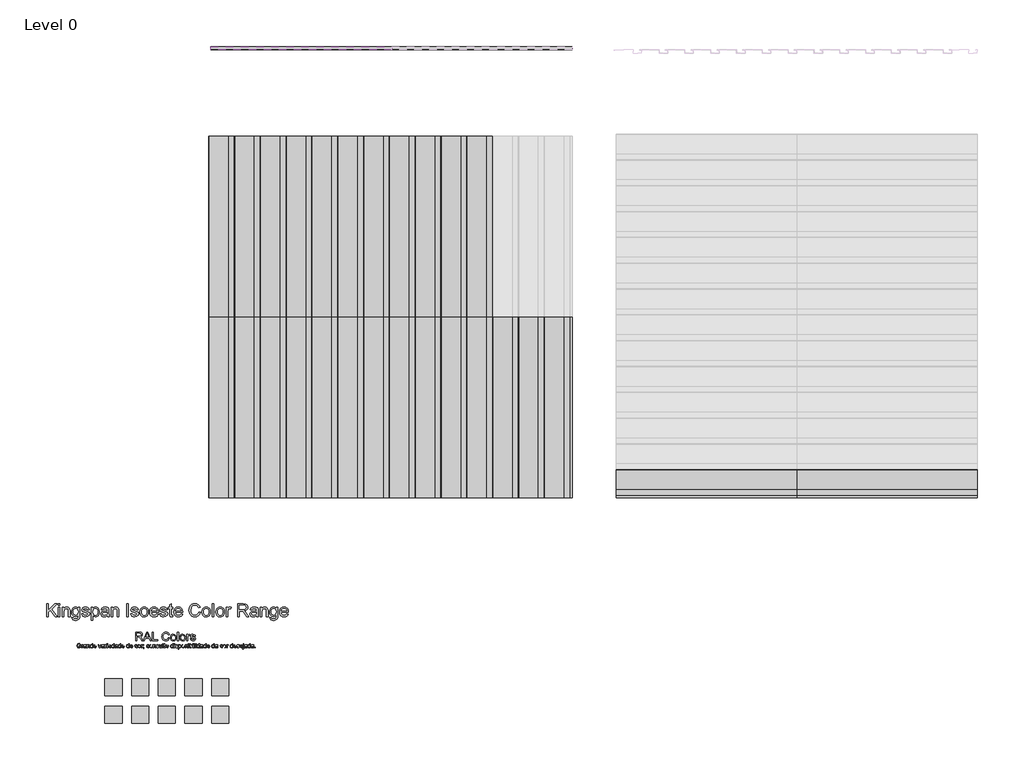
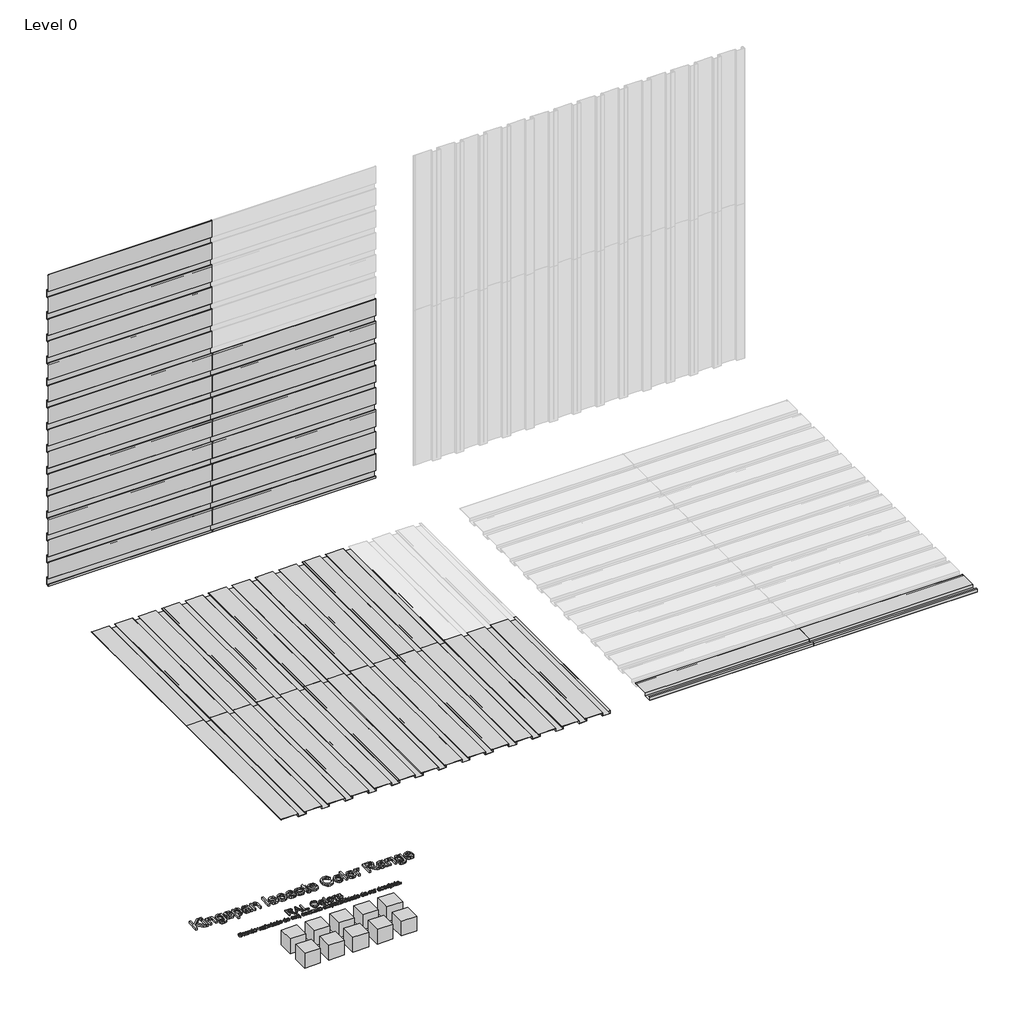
# One storey, part 1 of 2: 60 proxies.
"""IFC4 building model written with IfcOpenShell, lengths in millimetres."""

from ifc_helpers import new_model, si_unit, origin, place, context, project, spatial, transform, mapped, element, save
from components import proxy_32_ks_iso_colour_range_8220f766, proxy_32_ks_iso_colour_range_06d69407, ks_colour_sample_ks_colour_sample_0243efec, mx11_0_standard_panel_ns_816acfb4, mx11_0_standard_panel_ns_a8d7d735

model = new_model("IFC4")

# Units and contexts
model_context = context("Model", 3, world=origin())
ifc_project = project(units=[si_unit("LENGTHUNIT", "METRE", prefix="MILLI")], contexts=[model_context])

# Site, building, storey
site = spatial("IfcSite", under=ifc_project)
building = spatial("IfcBuilding", under=site)
storey = spatial("IfcBuildingStorey", under=building, Name="Level 0", Elevation=0.0)

# Proxies
placement = place(None, origin())
proxy_32_ks_iso_colour_range_shape = proxy_32_ks_iso_colour_range_8220f766(model_context)
proxy_32_ks_iso_colour_range_2_shape = proxy_32_ks_iso_colour_range_06d69407(model_context)
element("IfcBuildingElementProxy", 1, Name="32-KS-ISO-Colour Range : Kingspan Isoeste Color Range", ObjectType="32-KS-ISO-Colour Range : Kingspan Isoeste Color Range", at=placement, inside=storey, context=model_context, shape_type="MappedRepresentation", body=[
    mapped(proxy_32_ks_iso_colour_range_shape, transform((-3929.8390717, -2223.0925896, 0.0), x_axis=(1.0, 0.0, 0.0), y_axis=(0.0, 1.0, 0.0), z_axis=(0.0, 0.0, 1.0))),
    mapped(proxy_32_ks_iso_colour_range_2_shape, transform((-3929.8390717, -2223.0925896, 0.0), x_axis=(1.0, 0.0, 0.0), y_axis=(0.0, 1.0, 0.0), z_axis=(0.0, 0.0, 1.0))),
])
ks_colour_sample_ks_colour_sample_shape = ks_colour_sample_ks_colour_sample_0243efec(model_context)
element("IfcBuildingElementProxy", 2, Name="KS_Colour Sample : KS_Colour Sample", ObjectType="KS_Colour Sample : KS_Colour Sample", at=placement, inside=storey, context=model_context, shape_type="MappedRepresentation", body=[
    mapped(ks_colour_sample_ks_colour_sample_shape, transform((-3309.8390717, -2663.0925896, 0.0), x_axis=(1.0, 0.0, 0.0), y_axis=(0.0, 1.0, 0.0), z_axis=(0.0, 0.0, 1.0))),
])
element("IfcBuildingElementProxy", 3, Name="KS_Colour Sample : KS_Colour Sample", ObjectType="KS_Colour Sample : KS_Colour Sample", at=placement, inside=storey, context=model_context, shape_type="MappedRepresentation", body=[
    mapped(ks_colour_sample_ks_colour_sample_shape, transform((-3309.8390717, -2343.0925896, 0.0), x_axis=(1.0, 0.0, 0.0), y_axis=(0.0, 1.0, 0.0), z_axis=(0.0, 0.0, 1.0))),
])
element("IfcBuildingElementProxy", 4, Name="KS_Colour Sample : KS_Colour Sample", ObjectType="KS_Colour Sample : KS_Colour Sample", at=placement, inside=storey, context=model_context, shape_type="MappedRepresentation", body=[
    mapped(ks_colour_sample_ks_colour_sample_shape, transform((-4549.8390717, -2663.0925896, 0.0), x_axis=(1.0, 0.0, 0.0), y_axis=(0.0, 1.0, 0.0), z_axis=(0.0, 0.0, 1.0))),
])
element("IfcBuildingElementProxy", 5, Name="KS_Colour Sample : KS_Colour Sample", ObjectType="KS_Colour Sample : KS_Colour Sample", at=placement, inside=storey, context=model_context, shape_type="MappedRepresentation", body=[
    mapped(ks_colour_sample_ks_colour_sample_shape, transform((-4239.8390717, -2663.0925896, 0.0), x_axis=(1.0, 0.0, 0.0), y_axis=(0.0, 1.0, 0.0), z_axis=(0.0, 0.0, 1.0))),
])
element("IfcBuildingElementProxy", 6, Name="KS_Colour Sample : KS_Colour Sample", ObjectType="KS_Colour Sample : KS_Colour Sample", at=placement, inside=storey, context=model_context, shape_type="MappedRepresentation", body=[
    mapped(ks_colour_sample_ks_colour_sample_shape, transform((-3619.8390717, -2663.0925896, 0.0), x_axis=(1.0, 0.0, 0.0), y_axis=(0.0, 1.0, 0.0), z_axis=(0.0, 0.0, 1.0))),
])
element("IfcBuildingElementProxy", 7, Name="KS_Colour Sample : KS_Colour Sample", ObjectType="KS_Colour Sample : KS_Colour Sample", at=placement, inside=storey, context=model_context, shape_type="MappedRepresentation", body=[
    mapped(ks_colour_sample_ks_colour_sample_shape, transform((-4549.8390717, -2343.0925896, 0.0), x_axis=(1.0, 0.0, 0.0), y_axis=(0.0, 1.0, 0.0), z_axis=(0.0, 0.0, 1.0))),
])
element("IfcBuildingElementProxy", 8, Name="KS_Colour Sample : KS_Colour Sample", ObjectType="KS_Colour Sample : KS_Colour Sample", at=placement, inside=storey, context=model_context, shape_type="MappedRepresentation", body=[
    mapped(ks_colour_sample_ks_colour_sample_shape, transform((-4239.8390717, -2343.0925896, 0.0), x_axis=(1.0, 0.0, 0.0), y_axis=(0.0, 1.0, 0.0), z_axis=(0.0, 0.0, 1.0))),
])
element("IfcBuildingElementProxy", 9, Name="KS_Colour Sample : KS_Colour Sample", ObjectType="KS_Colour Sample : KS_Colour Sample", at=placement, inside=storey, context=model_context, shape_type="MappedRepresentation", body=[
    mapped(ks_colour_sample_ks_colour_sample_shape, transform((-3619.8390717, -2343.0925896, 0.0), x_axis=(1.0, 0.0, 0.0), y_axis=(0.0, 1.0, 0.0), z_axis=(0.0, 0.0, 1.0))),
])
element("IfcBuildingElementProxy", 10, Name="KS_Colour Sample : KS_Colour Sample", ObjectType="KS_Colour Sample : KS_Colour Sample", at=placement, inside=storey, context=model_context, shape_type="MappedRepresentation", body=[
    mapped(ks_colour_sample_ks_colour_sample_shape, transform((-3929.8390717, -2343.0925896, 0.0), x_axis=(1.0, 0.0, 0.0), y_axis=(0.0, 1.0, 0.0), z_axis=(0.0, 0.0, 1.0))),
])
element("IfcBuildingElementProxy", 11, Name="KS_Colour Sample : KS_Colour Sample", ObjectType="KS_Colour Sample : KS_Colour Sample", at=placement, inside=storey, context=model_context, shape_type="MappedRepresentation", body=[
    mapped(ks_colour_sample_ks_colour_sample_shape, transform((-3929.8390717, -2663.0925896, 0.0), x_axis=(1.0, 0.0, 0.0), y_axis=(0.0, 1.0, 0.0), z_axis=(0.0, 0.0, 1.0))),
])
mx11_0_standard_panel_ns_shape = mx11_0_standard_panel_ns_816acfb4(model_context)
element("IfcBuildingElementProxy", 12, Name="MX11.0 : Standard Panel_NS", ObjectType="MX11.0 : Standard Panel_NS", at=placement, inside=storey, context=model_context, shape_type="MappedRepresentation", body=[
    mapped(mx11_0_standard_panel_ns_shape, transform((-1617.7637297, -141.6886547, 0.0), x_axis=(0.0, 1.0, 0.0), y_axis=(-1.0, 0.0, 0.0), z_axis=(0.0, 0.0, 1.0))),
])
element("IfcBuildingElementProxy", 13, Name="MX11.0 : Standard Panel_NS", ObjectType="MX11.0 : Standard Panel_NS", at=placement, inside=storey, context=model_context, shape_type="MappedRepresentation", body=[
    mapped(mx11_0_standard_panel_ns_shape, transform((1289.7088668, -141.6886547, 0.0), x_axis=(1.0, 0.0, 0.0), y_axis=(0.0, 1.0, 0.0), z_axis=(0.0, 0.0, 1.0))),
])
element("IfcBuildingElementProxy", 14, Name="MX11.0 : Standard Panel_NS", ObjectType="MX11.0 : Standard Panel_NS", at=placement, inside=storey, context=model_context, shape_type="MappedRepresentation", body=[
    mapped(mx11_0_standard_panel_ns_shape, transform((-1617.7637297, 1958.3113453, 0.0), x_axis=(0.0, 1.0, 0.0), y_axis=(-1.0, 0.0, 0.0), z_axis=(0.0, 0.0, 1.0))),
])
element("IfcBuildingElementProxy", 15, Name="MX11.0 : Standard Panel_NS", ObjectType="MX11.0 : Standard Panel_NS", at=placement, inside=storey, context=model_context, shape_type="MappedRepresentation", body=[
    mapped(mx11_0_standard_panel_ns_shape, transform((3389.7088668, -141.6886547, 0.0), x_axis=(1.0, 0.0, 0.0), y_axis=(0.0, 1.0, 0.0), z_axis=(0.0, 0.0, 1.0))),
])
element("IfcBuildingElementProxy", 16, Name="MX11.0 : Standard Panel_NS", ObjectType="MX11.0 : Standard Panel_NS", at=placement, inside=storey, context=model_context, shape_type="MappedRepresentation", body=[
    mapped(mx11_0_standard_panel_ns_shape, transform((782.2362705, -141.6886547, 0.0), x_axis=(0.0, 1.0, 0.0), y_axis=(-1.0, 0.0, 0.0), z_axis=(0.0, 0.0, 1.0))),
])
mx11_0_standard_panel_ns_2_shape = mx11_0_standard_panel_ns_a8d7d735(model_context)
element("IfcBuildingElementProxy", 17, Name="MX11.0 : Standard Panel_NS", ObjectType="MX11.0 : Standard Panel_NS", at=placement, inside=storey, context=model_context, shape_type="MappedRepresentation", body=[
    mapped(mx11_0_standard_panel_ns_2_shape, transform((-3417.7637295, 5063.0274074, 0.0), x_axis=(1.0, 0.0, 0.0), y_axis=(0.0, 0.0, -1.0), z_axis=(0.0, 1.0, 0.0))),
])
element("IfcBuildingElementProxy", 18, Name="MX11.0 : Standard Panel_NS", ObjectType="MX11.0 : Standard Panel_NS", at=placement, inside=storey, context=model_context, shape_type="MappedRepresentation", body=[
    mapped(mx11_0_standard_panel_ns_2_shape, transform((-3417.7637295, 5063.0274074, 2400.0), x_axis=(1.0, 0.0, 0.0), y_axis=(0.0, 0.0, -1.0), z_axis=(0.0, 1.0, 0.0))),
])
element("IfcBuildingElementProxy", 19, Name="MX11.0 : Standard Panel_NS", ObjectType="MX11.0 : Standard Panel_NS", at=placement, inside=storey, context=model_context, shape_type="MappedRepresentation", body=[
    mapped(mx11_0_standard_panel_ns_2_shape, transform((-1317.7637295, 5063.0274074, 0.0), x_axis=(1.0, 0.0, 0.0), y_axis=(0.0, 0.0, -1.0), z_axis=(0.0, 1.0, 0.0))),
])
element("IfcBuildingElementProxy", 20, Name="MX11.0 : Standard Panel_NS", ObjectType="MX11.0 : Standard Panel_NS", at=placement, inside=storey, context=model_context, shape_type="MappedRepresentation", body=[
    mapped(mx11_0_standard_panel_ns_shape, transform((-3117.7637295, -141.6886547, 0.0), x_axis=(0.0, 1.0, 0.0), y_axis=(-1.0, 0.0, 0.0), z_axis=(0.0, 0.0, 1.0))),
])
element("IfcBuildingElementProxy", 21, Name="MX11.0 : Standard Panel_NS", ObjectType="MX11.0 : Standard Panel_NS", at=placement, inside=storey, context=model_context, shape_type="MappedRepresentation", body=[
    mapped(mx11_0_standard_panel_ns_shape, transform((-717.7637297, -141.6886547, 0.0), x_axis=(0.0, 1.0, 0.0), y_axis=(-1.0, 0.0, 0.0), z_axis=(0.0, 0.0, 1.0))),
])
element("IfcBuildingElementProxy", 22, Name="MX11.0 : Standard Panel_NS", ObjectType="MX11.0 : Standard Panel_NS", at=placement, inside=storey, context=model_context, shape_type="MappedRepresentation", body=[
    mapped(mx11_0_standard_panel_ns_shape, transform((-3117.7637295, 1958.3113453, 0.0), x_axis=(0.0, 1.0, 0.0), y_axis=(-1.0, 0.0, 0.0), z_axis=(0.0, 0.0, 1.0))),
])
element("IfcBuildingElementProxy", 23, Name="MX11.0 : Standard Panel_NS", ObjectType="MX11.0 : Standard Panel_NS", at=placement, inside=storey, context=model_context, shape_type="MappedRepresentation", body=[
    mapped(mx11_0_standard_panel_ns_shape, transform((-717.7637297, 1958.3113453, 0.0), x_axis=(0.0, 1.0, 0.0), y_axis=(-1.0, 0.0, 0.0), z_axis=(0.0, 0.0, 1.0))),
])
element("IfcBuildingElementProxy", 24, Name="MX11.0 : Standard Panel_NS", ObjectType="MX11.0 : Standard Panel_NS", at=placement, inside=storey, context=model_context, shape_type="MappedRepresentation", body=[
    mapped(mx11_0_standard_panel_ns_shape, transform((482.2362703, -141.6886547, 0.0), x_axis=(0.0, 1.0, 0.0), y_axis=(-1.0, 0.0, 0.0), z_axis=(0.0, 0.0, 1.0))),
])
element("IfcBuildingElementProxy", 25, Name="MX11.0 : Standard Panel_NS", ObjectType="MX11.0 : Standard Panel_NS", at=placement, inside=storey, context=model_context, shape_type="MappedRepresentation", body=[
    mapped(mx11_0_standard_panel_ns_shape, transform((-1917.7637297, -141.6886547, 0.0), x_axis=(0.0, 1.0, 0.0), y_axis=(-1.0, 0.0, 0.0), z_axis=(0.0, 0.0, 1.0))),
])
element("IfcBuildingElementProxy", 26, Name="MX11.0 : Standard Panel_NS", ObjectType="MX11.0 : Standard Panel_NS", at=placement, inside=storey, context=model_context, shape_type="MappedRepresentation", body=[
    mapped(mx11_0_standard_panel_ns_shape, transform((-1917.7637297, 1958.3113453, 0.0), x_axis=(0.0, 1.0, 0.0), y_axis=(-1.0, 0.0, 0.0), z_axis=(0.0, 0.0, 1.0))),
])
element("IfcBuildingElementProxy", 27, Name="MX11.0 : Standard Panel_NS", ObjectType="MX11.0 : Standard Panel_NS", at=placement, inside=storey, context=model_context, shape_type="MappedRepresentation", body=[
    mapped(mx11_0_standard_panel_ns_shape, transform((182.2362703, -141.6886547, 0.0), x_axis=(0.0, 1.0, 0.0), y_axis=(-1.0, 0.0, 0.0), z_axis=(0.0, 0.0, 1.0))),
])
element("IfcBuildingElementProxy", 28, Name="MX11.0 : Standard Panel_NS", ObjectType="MX11.0 : Standard Panel_NS", at=placement, inside=storey, context=model_context, shape_type="MappedRepresentation", body=[
    mapped(mx11_0_standard_panel_ns_shape, transform((-2217.7637297, -141.6886547, 0.0), x_axis=(0.0, 1.0, 0.0), y_axis=(-1.0, 0.0, 0.0), z_axis=(0.0, 0.0, 1.0))),
])
element("IfcBuildingElementProxy", 29, Name="MX11.0 : Standard Panel_NS", ObjectType="MX11.0 : Standard Panel_NS", at=placement, inside=storey, context=model_context, shape_type="MappedRepresentation", body=[
    mapped(mx11_0_standard_panel_ns_shape, transform((-2217.7637297, 1958.3113453, 0.0), x_axis=(0.0, 1.0, 0.0), y_axis=(-1.0, 0.0, 0.0), z_axis=(0.0, 0.0, 1.0))),
])
element("IfcBuildingElementProxy", 30, Name="MX11.0 : Standard Panel_NS", ObjectType="MX11.0 : Standard Panel_NS", at=placement, inside=storey, context=model_context, shape_type="MappedRepresentation", body=[
    mapped(mx11_0_standard_panel_ns_shape, transform((-117.7637297, -141.6886547, 0.0), x_axis=(0.0, 1.0, 0.0), y_axis=(-1.0, 0.0, 0.0), z_axis=(0.0, 0.0, 1.0))),
])
element("IfcBuildingElementProxy", 31, Name="MX11.0 : Standard Panel_NS", ObjectType="MX11.0 : Standard Panel_NS", at=placement, inside=storey, context=model_context, shape_type="MappedRepresentation", body=[
    mapped(mx11_0_standard_panel_ns_shape, transform((-2517.7637297, -141.6886547, 0.0), x_axis=(0.0, 1.0, 0.0), y_axis=(-1.0, 0.0, 0.0), z_axis=(0.0, 0.0, 1.0))),
])
element("IfcBuildingElementProxy", 32, Name="MX11.0 : Standard Panel_NS", ObjectType="MX11.0 : Standard Panel_NS", at=placement, inside=storey, context=model_context, shape_type="MappedRepresentation", body=[
    mapped(mx11_0_standard_panel_ns_shape, transform((-2517.7637297, 1958.3113453, 0.0), x_axis=(0.0, 1.0, 0.0), y_axis=(-1.0, 0.0, 0.0), z_axis=(0.0, 0.0, 1.0))),
])
element("IfcBuildingElementProxy", 33, Name="MX11.0 : Standard Panel_NS", ObjectType="MX11.0 : Standard Panel_NS", at=placement, inside=storey, context=model_context, shape_type="MappedRepresentation", body=[
    mapped(mx11_0_standard_panel_ns_shape, transform((-117.7637297, 1958.3113453, 0.0), x_axis=(0.0, 1.0, 0.0), y_axis=(-1.0, 0.0, 0.0), z_axis=(0.0, 0.0, 1.0))),
])
element("IfcBuildingElementProxy", 34, Name="MX11.0 : Standard Panel_NS", ObjectType="MX11.0 : Standard Panel_NS", at=placement, inside=storey, context=model_context, shape_type="MappedRepresentation", body=[
    mapped(mx11_0_standard_panel_ns_shape, transform((-417.7637297, -141.6886547, 0.0), x_axis=(0.0, 1.0, 0.0), y_axis=(-1.0, 0.0, 0.0), z_axis=(0.0, 0.0, 1.0))),
])
element("IfcBuildingElementProxy", 35, Name="MX11.0 : Standard Panel_NS", ObjectType="MX11.0 : Standard Panel_NS", at=placement, inside=storey, context=model_context, shape_type="MappedRepresentation", body=[
    mapped(mx11_0_standard_panel_ns_shape, transform((-2817.7637297, -141.6886547, 0.0), x_axis=(0.0, 1.0, 0.0), y_axis=(-1.0, 0.0, 0.0), z_axis=(0.0, 0.0, 1.0))),
])
element("IfcBuildingElementProxy", 36, Name="MX11.0 : Standard Panel_NS", ObjectType="MX11.0 : Standard Panel_NS", at=placement, inside=storey, context=model_context, shape_type="MappedRepresentation", body=[
    mapped(mx11_0_standard_panel_ns_shape, transform((-2817.7637297, 1958.3113453, 0.0), x_axis=(0.0, 1.0, 0.0), y_axis=(-1.0, 0.0, 0.0), z_axis=(0.0, 0.0, 1.0))),
])
element("IfcBuildingElementProxy", 37, Name="MX11.0 : Standard Panel_NS", ObjectType="MX11.0 : Standard Panel_NS", at=placement, inside=storey, context=model_context, shape_type="MappedRepresentation", body=[
    mapped(mx11_0_standard_panel_ns_shape, transform((-417.7637297, 1958.3113453, 0.0), x_axis=(0.0, 1.0, 0.0), y_axis=(-1.0, 0.0, 0.0), z_axis=(0.0, 0.0, 1.0))),
])
element("IfcBuildingElementProxy", 38, Name="MX11.0 : Standard Panel_NS", ObjectType="MX11.0 : Standard Panel_NS", at=placement, inside=storey, context=model_context, shape_type="MappedRepresentation", body=[
    mapped(mx11_0_standard_panel_ns_shape, transform((-1017.7637297, -141.6886547, 0.0), x_axis=(0.0, 1.0, 0.0), y_axis=(-1.0, 0.0, 0.0), z_axis=(0.0, 0.0, 1.0))),
])
element("IfcBuildingElementProxy", 39, Name="MX11.0 : Standard Panel_NS", ObjectType="MX11.0 : Standard Panel_NS", at=placement, inside=storey, context=model_context, shape_type="MappedRepresentation", body=[
    mapped(mx11_0_standard_panel_ns_shape, transform((-1017.7637297, 1958.3113453, 0.0), x_axis=(0.0, 1.0, 0.0), y_axis=(-1.0, 0.0, 0.0), z_axis=(0.0, 0.0, 1.0))),
])
element("IfcBuildingElementProxy", 40, Name="MX11.0 : Standard Panel_NS", ObjectType="MX11.0 : Standard Panel_NS", at=placement, inside=storey, context=model_context, shape_type="MappedRepresentation", body=[
    mapped(mx11_0_standard_panel_ns_shape, transform((-1317.7637297, -141.6886547, 0.0), x_axis=(0.0, 1.0, 0.0), y_axis=(-1.0, 0.0, 0.0), z_axis=(0.0, 0.0, 1.0))),
])
element("IfcBuildingElementProxy", 41, Name="MX11.0 : Standard Panel_NS", ObjectType="MX11.0 : Standard Panel_NS", at=placement, inside=storey, context=model_context, shape_type="MappedRepresentation", body=[
    mapped(mx11_0_standard_panel_ns_shape, transform((-1317.7637297, 1958.3113453, 0.0), x_axis=(0.0, 1.0, 0.0), y_axis=(-1.0, 0.0, 0.0), z_axis=(0.0, 0.0, 1.0))),
])
element("IfcBuildingElementProxy", 42, Name="MX11.0 : Standard Panel_NS", ObjectType="MX11.0 : Standard Panel_NS", at=placement, inside=storey, context=model_context, shape_type="MappedRepresentation", body=[
    mapped(mx11_0_standard_panel_ns_2_shape, transform((-3417.7637295, 5063.0274074, 300.0), x_axis=(1.0, 0.0, 0.0), y_axis=(0.0, 0.0, -1.0), z_axis=(0.0, 1.0, 0.0))),
])
element("IfcBuildingElementProxy", 43, Name="MX11.0 : Standard Panel_NS", ObjectType="MX11.0 : Standard Panel_NS", at=placement, inside=storey, context=model_context, shape_type="MappedRepresentation", body=[
    mapped(mx11_0_standard_panel_ns_2_shape, transform((-3417.7637295, 5063.0274074, 2700.0), x_axis=(1.0, 0.0, 0.0), y_axis=(0.0, 0.0, -1.0), z_axis=(0.0, 1.0, 0.0))),
])
element("IfcBuildingElementProxy", 44, Name="MX11.0 : Standard Panel_NS", ObjectType="MX11.0 : Standard Panel_NS", at=placement, inside=storey, context=model_context, shape_type="MappedRepresentation", body=[
    mapped(mx11_0_standard_panel_ns_2_shape, transform((-1317.7637295, 5063.0274074, 300.0), x_axis=(1.0, 0.0, 0.0), y_axis=(0.0, 0.0, -1.0), z_axis=(0.0, 1.0, 0.0))),
])
element("IfcBuildingElementProxy", 45, Name="MX11.0 : Standard Panel_NS", ObjectType="MX11.0 : Standard Panel_NS", at=placement, inside=storey, context=model_context, shape_type="MappedRepresentation", body=[
    mapped(mx11_0_standard_panel_ns_2_shape, transform((-3417.7637295, 5063.0274074, 600.0), x_axis=(1.0, 0.0, 0.0), y_axis=(0.0, 0.0, -1.0), z_axis=(0.0, 1.0, 0.0))),
])
element("IfcBuildingElementProxy", 46, Name="MX11.0 : Standard Panel_NS", ObjectType="MX11.0 : Standard Panel_NS", at=placement, inside=storey, context=model_context, shape_type="MappedRepresentation", body=[
    mapped(mx11_0_standard_panel_ns_2_shape, transform((-3417.7637295, 5063.0274074, 3000.0), x_axis=(1.0, 0.0, 0.0), y_axis=(0.0, 0.0, -1.0), z_axis=(0.0, 1.0, 0.0))),
])
element("IfcBuildingElementProxy", 47, Name="MX11.0 : Standard Panel_NS", ObjectType="MX11.0 : Standard Panel_NS", at=placement, inside=storey, context=model_context, shape_type="MappedRepresentation", body=[
    mapped(mx11_0_standard_panel_ns_2_shape, transform((-1317.7637295, 5063.0274074, 600.0), x_axis=(1.0, 0.0, 0.0), y_axis=(0.0, 0.0, -1.0), z_axis=(0.0, 1.0, 0.0))),
])
element("IfcBuildingElementProxy", 48, Name="MX11.0 : Standard Panel_NS", ObjectType="MX11.0 : Standard Panel_NS", at=placement, inside=storey, context=model_context, shape_type="MappedRepresentation", body=[
    mapped(mx11_0_standard_panel_ns_2_shape, transform((-3417.7637295, 5063.0274074, 900.0), x_axis=(1.0, 0.0, 0.0), y_axis=(0.0, 0.0, -1.0), z_axis=(0.0, 1.0, 0.0))),
])
element("IfcBuildingElementProxy", 49, Name="MX11.0 : Standard Panel_NS", ObjectType="MX11.0 : Standard Panel_NS", at=placement, inside=storey, context=model_context, shape_type="MappedRepresentation", body=[
    mapped(mx11_0_standard_panel_ns_2_shape, transform((-3417.7637295, 5063.0274074, 3300.0), x_axis=(1.0, 0.0, 0.0), y_axis=(0.0, 0.0, -1.0), z_axis=(0.0, 1.0, 0.0))),
])
element("IfcBuildingElementProxy", 50, Name="MX11.0 : Standard Panel_NS", ObjectType="MX11.0 : Standard Panel_NS", at=placement, inside=storey, context=model_context, shape_type="MappedRepresentation", body=[
    mapped(mx11_0_standard_panel_ns_2_shape, transform((-1317.7637295, 5063.0274074, 900.0), x_axis=(1.0, 0.0, 0.0), y_axis=(0.0, 0.0, -1.0), z_axis=(0.0, 1.0, 0.0))),
])
element("IfcBuildingElementProxy", 51, Name="MX11.0 : Standard Panel_NS", ObjectType="MX11.0 : Standard Panel_NS", at=placement, inside=storey, context=model_context, shape_type="MappedRepresentation", body=[
    mapped(mx11_0_standard_panel_ns_2_shape, transform((-3417.7637295, 5063.0274074, 1200.0), x_axis=(1.0, 0.0, 0.0), y_axis=(0.0, 0.0, -1.0), z_axis=(0.0, 1.0, 0.0))),
])
element("IfcBuildingElementProxy", 52, Name="MX11.0 : Standard Panel_NS", ObjectType="MX11.0 : Standard Panel_NS", at=placement, inside=storey, context=model_context, shape_type="MappedRepresentation", body=[
    mapped(mx11_0_standard_panel_ns_2_shape, transform((-3417.7637295, 5063.0274074, 3600.0), x_axis=(1.0, 0.0, 0.0), y_axis=(0.0, 0.0, -1.0), z_axis=(0.0, 1.0, 0.0))),
])
element("IfcBuildingElementProxy", 53, Name="MX11.0 : Standard Panel_NS", ObjectType="MX11.0 : Standard Panel_NS", at=placement, inside=storey, context=model_context, shape_type="MappedRepresentation", body=[
    mapped(mx11_0_standard_panel_ns_2_shape, transform((-1317.7637295, 5063.0274074, 1200.0), x_axis=(1.0, 0.0, 0.0), y_axis=(0.0, 0.0, -1.0), z_axis=(0.0, 1.0, 0.0))),
])
element("IfcBuildingElementProxy", 54, Name="MX11.0 : Standard Panel_NS", ObjectType="MX11.0 : Standard Panel_NS", at=placement, inside=storey, context=model_context, shape_type="MappedRepresentation", body=[
    mapped(mx11_0_standard_panel_ns_2_shape, transform((-3417.7637295, 5063.0274074, 1500.0), x_axis=(1.0, 0.0, 0.0), y_axis=(0.0, 0.0, -1.0), z_axis=(0.0, 1.0, 0.0))),
])
element("IfcBuildingElementProxy", 55, Name="MX11.0 : Standard Panel_NS", ObjectType="MX11.0 : Standard Panel_NS", at=placement, inside=storey, context=model_context, shape_type="MappedRepresentation", body=[
    mapped(mx11_0_standard_panel_ns_2_shape, transform((-3417.7637295, 5063.0274074, 3900.0), x_axis=(1.0, 0.0, 0.0), y_axis=(0.0, 0.0, -1.0), z_axis=(0.0, 1.0, 0.0))),
])
element("IfcBuildingElementProxy", 56, Name="MX11.0 : Standard Panel_NS", ObjectType="MX11.0 : Standard Panel_NS", at=placement, inside=storey, context=model_context, shape_type="MappedRepresentation", body=[
    mapped(mx11_0_standard_panel_ns_2_shape, transform((-1317.7637295, 5063.0274074, 1500.0), x_axis=(1.0, 0.0, 0.0), y_axis=(0.0, 0.0, -1.0), z_axis=(0.0, 1.0, 0.0))),
])
element("IfcBuildingElementProxy", 57, Name="MX11.0 : Standard Panel_NS", ObjectType="MX11.0 : Standard Panel_NS", at=placement, inside=storey, context=model_context, shape_type="MappedRepresentation", body=[
    mapped(mx11_0_standard_panel_ns_2_shape, transform((-3417.7637295, 5063.0274074, 1800.0), x_axis=(1.0, 0.0, 0.0), y_axis=(0.0, 0.0, -1.0), z_axis=(0.0, 1.0, 0.0))),
])
element("IfcBuildingElementProxy", 58, Name="MX11.0 : Standard Panel_NS", ObjectType="MX11.0 : Standard Panel_NS", at=placement, inside=storey, context=model_context, shape_type="MappedRepresentation", body=[
    mapped(mx11_0_standard_panel_ns_2_shape, transform((-1317.7637295, 5063.0274074, 1800.0), x_axis=(1.0, 0.0, 0.0), y_axis=(0.0, 0.0, -1.0), z_axis=(0.0, 1.0, 0.0))),
])
element("IfcBuildingElementProxy", 59, Name="MX11.0 : Standard Panel_NS", ObjectType="MX11.0 : Standard Panel_NS", at=placement, inside=storey, context=model_context, shape_type="MappedRepresentation", body=[
    mapped(mx11_0_standard_panel_ns_2_shape, transform((-3417.7637295, 5063.0274074, 2100.0), x_axis=(1.0, 0.0, 0.0), y_axis=(0.0, 0.0, -1.0), z_axis=(0.0, 1.0, 0.0))),
])
element("IfcBuildingElementProxy", 60, Name="MX11.0 : Standard Panel_NS", ObjectType="MX11.0 : Standard Panel_NS", at=placement, inside=storey, context=model_context, shape_type="MappedRepresentation", body=[
    mapped(mx11_0_standard_panel_ns_2_shape, transform((-1317.7637295, 5063.0274074, 2100.0), x_axis=(1.0, 0.0, 0.0), y_axis=(0.0, 0.0, -1.0), z_axis=(0.0, 1.0, 0.0))),
])

save(model, "model.ifc")
